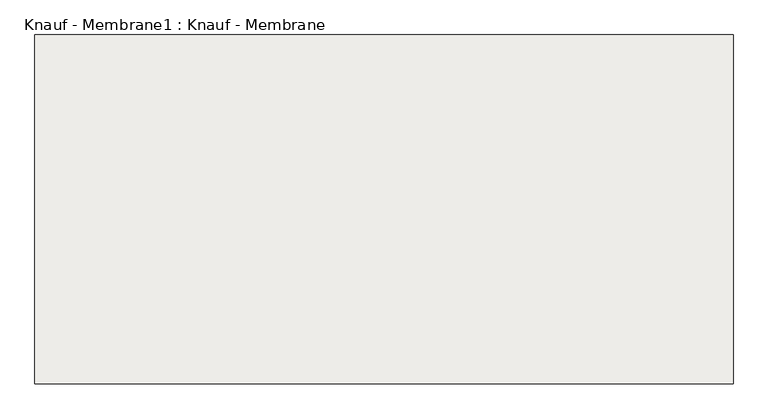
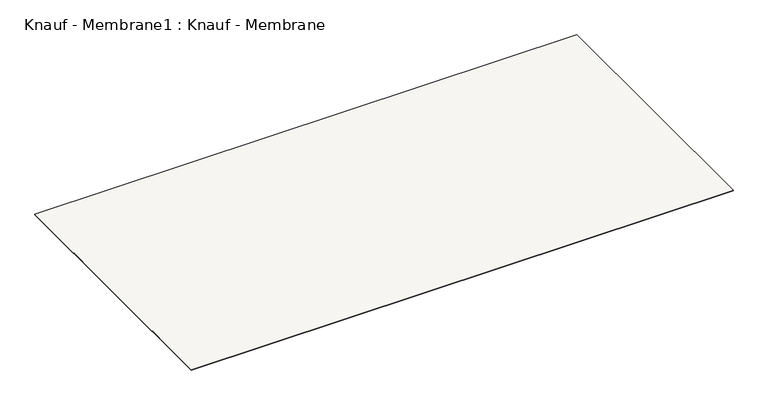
"""IFC4 building model written with IfcOpenShell, lengths in millimetres: slab geometry, Knauf - Membrane1 : Knauf - Membrane."""

from ifc_helpers import new_model, si_unit, origin, origin_with_axes, place, context, project, spatial, polyline, outline, extrude, source, transform, mapped, element, save


def knauf_membrane1_knauf_membrane_1fcf22a4(model_context):
    return source(origin(), model_context, "Body", "SweptSolid", [
        extrude(outline(polyline([(20416.285179, 16921.0853197), (20416.285179, 16171.0853197), (18916.285179, 16171.0853197), (18916.285179, 16921.0853197), (20416.285179, 16921.0853197)])), origin_with_axes(), (0.0, 0.0, 1.0), 1.0),
    ])


if __name__ == "__main__":
    model = new_model("IFC4")
    model_context = context("Model", 3, world=origin())
    ifc_project = project(units=[si_unit("LENGTHUNIT", "METRE", prefix="MILLI")], contexts=[model_context])
    site = spatial("IfcSite", under=ifc_project)
    building = spatial("IfcBuilding", under=site)
    placement = place(None, origin())
    knauf_membrane1_knauf_membrane_shape = knauf_membrane1_knauf_membrane_1fcf22a4(model_context)
    element("IfcSlab", 1, ObjectType="Knauf - Membrane1 : Knauf - Membrane", at=placement, inside=building, context=model_context, shape_type="MappedRepresentation", body=[
        mapped(knauf_membrane1_knauf_membrane_shape, transform((0.0, 0.0, 0.0), x_axis=(1.0, 0.0, 0.0), y_axis=(0.0, 1.0, 0.0), z_axis=(0.0, 0.0, 1.0))),
    ])
    save(model, "model.ifc")
